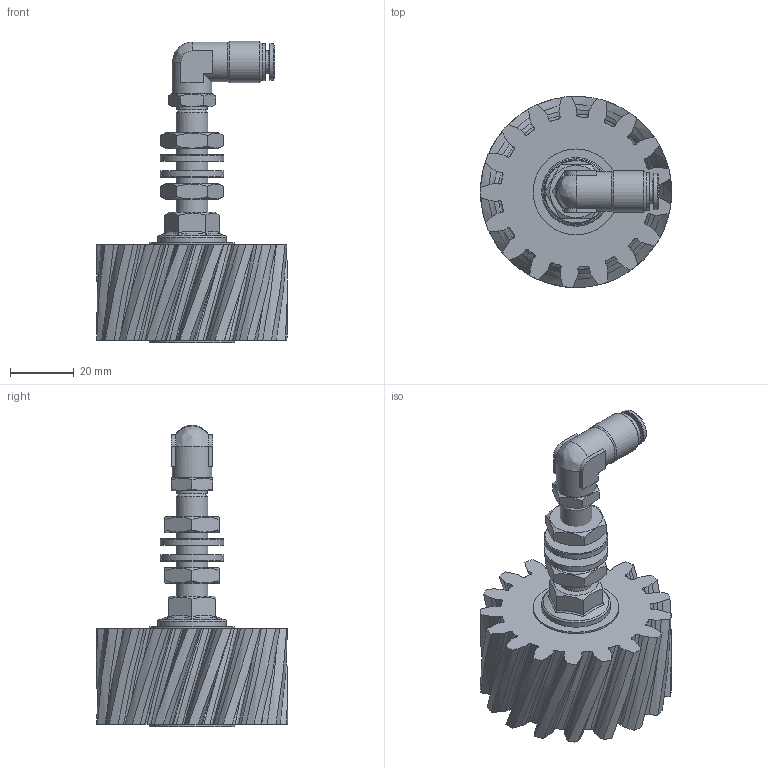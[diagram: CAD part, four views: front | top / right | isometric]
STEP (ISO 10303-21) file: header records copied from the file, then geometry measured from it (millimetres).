
FILE_DESCRIPTION (( 'STEP AP214' ), '1' );
FILE_NAME ('012_13_03_30_17ARZ.STEP', '2026-04-14T12:33:42', ( '' ), ( '' ), 'SwSTEP 2.0', 'SolidWorks 2022', '' );
FILE_SCHEMA (( 'AUTOMOTIVE_DESIGN' ));
Length unit declared in the file: millimetre
Products named in the file (13): DR6-C_HDX_25.07.16; H202225_HDS_022_6_M6_28.09.22; OR 7.2X1.9; H214667-HDS_1-8_M6X1Z; U_Scheibe_10.5; Mutter_M10; 012_06_Senkschraube; 12012_06_01_Scheibe-CRS-VA_27.SLDASM; Achse_M10_1_Schmierzahnrad; 012_13_03_30_17ARZ; Modul_3_S_R; R11155-N2
Assembly tree (14 placements, depth 4):
  012_13_03_30_17ARZ
    Achse_M10_1_Schmierzahnrad
    12012_06_01_Scheibe-CRS-VA_27.SLDASM
    012_06_Senkschraube
    Mutter_M10  x2
    U_Scheibe_10.5  x2
    H202225_HDS_022_6_M6_28.09.22
      R11155-N2
      DR6-C_HDX_25.07.16
      H214667-HDS_1-8_M6X1Z
        H214667-HDS_1-8_M6X1Z
        OR 7.2X1.9
    Modul_3_S_R
Bounding box: 60.09 x 60.09 x 94.7 mm (x, y, z)
Volume: 80417.8 mm3; surface area: 26681.7 mm2
Topology: 12 solids, 12 shells, 685 faces, 1846 edges, 1221 vertices
Faces by surface type: plane 328, bspline 248, cylinder 56, cone 49, torus 4
Full cylindrical faces by diameter (mm): 2 x1, 4 x1, 4.6 x1, 5 x1, 6 x2, 6.2 x1, 6.3 x1, 7.2 x1, 8.5 x2, 9 x2, 9.5 x1, 9.9 x1, 10 x2, 10.1 x2, 10.3 x1, 10.5 x2, 11.5 x1, 11.7 x1, 12.5 x2, 13 x1, 20 x2, 21.6 x1, 27 x2
Entity records: 64901 total; most frequent: CARTESIAN_POINT 48638, ORIENTED_EDGE 3386, DIRECTION 2202, EDGE_CURVE 1693, VERTEX_POINT 1153, LINE 1024, VECTOR 1024, EDGE_LOOP 786
